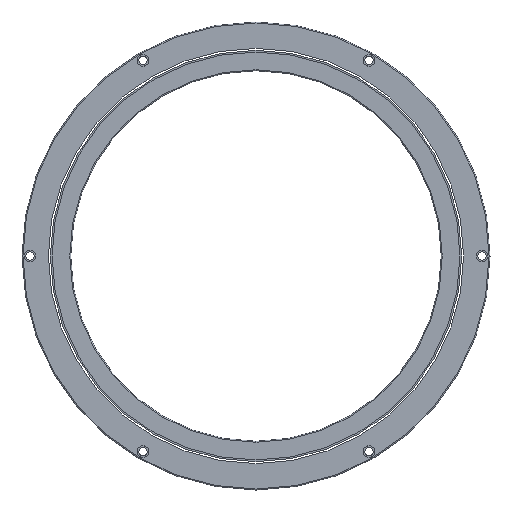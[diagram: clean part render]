
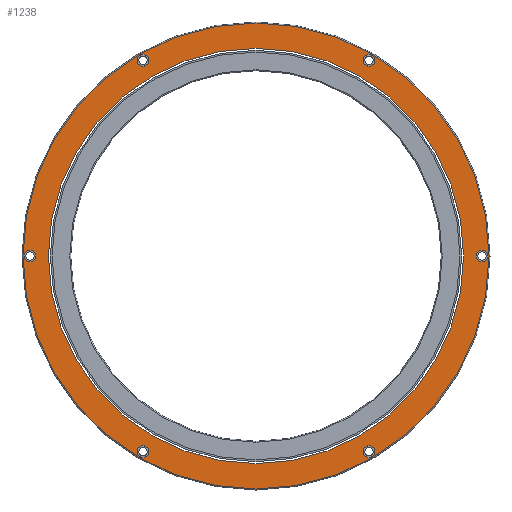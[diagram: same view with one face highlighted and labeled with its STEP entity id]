
A CAD part, front view. The second image highlights one B-rep face of the part: STEP entity #1238.
In plain terms, the highlighted planar face has unit normal (0, -1, 0).
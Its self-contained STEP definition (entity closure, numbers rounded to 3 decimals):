
#89=CARTESIAN_POINT('',(0.,0.,0.));
#90=DIRECTION('',(0.,-1.,0.));
#91=DIRECTION('',(-1.,0.,0.));
#92=AXIS2_PLACEMENT_3D('',#89,#90,#91);
#94=CARTESIAN_POINT('',(0.,0.,0.));
#95=DIRECTION('',(0.,1.,0.));
#96=DIRECTION('',(-1.,0.,0.));
#97=AXIS2_PLACEMENT_3D('',#94,#95,#96);
#99=CARTESIAN_POINT('',(-115.9,0.,0.));
#100=DIRECTION('',(0.,1.,0.));
#101=DIRECTION('',(1.,0.,0.));
#102=AXIS2_PLACEMENT_3D('',#99,#100,#101);
#104=CARTESIAN_POINT('',(-115.9,0.,0.));
#105=DIRECTION('',(0.,1.,0.));
#106=DIRECTION('',(-1.,0.,0.));
#107=AXIS2_PLACEMENT_3D('',#104,#105,#106);
#109=CARTESIAN_POINT('',(-57.95,0.,100.372));
#110=DIRECTION('',(0.,1.,0.));
#111=DIRECTION('',(0.5,0.,-0.866));
#112=AXIS2_PLACEMENT_3D('',#109,#110,#111);
#114=CARTESIAN_POINT('',(-57.95,0.,100.372));
#115=DIRECTION('',(0.,1.,0.));
#116=DIRECTION('',(-0.5,0.,0.866));
#117=AXIS2_PLACEMENT_3D('',#114,#115,#116);
#119=CARTESIAN_POINT('',(57.95,0.,100.372));
#120=DIRECTION('',(0.,1.,0.));
#121=DIRECTION('',(-0.5,0.,-0.866));
#122=AXIS2_PLACEMENT_3D('',#119,#120,#121);
#124=CARTESIAN_POINT('',(57.95,0.,100.372));
#125=DIRECTION('',(0.,1.,0.));
#126=DIRECTION('',(0.5,0.,0.866));
#127=AXIS2_PLACEMENT_3D('',#124,#125,#126);
#129=CARTESIAN_POINT('',(115.9,0.,0.));
#130=DIRECTION('',(0.,1.,0.));
#131=DIRECTION('',(-1.,0.,0.));
#132=AXIS2_PLACEMENT_3D('',#129,#130,#131);
#134=CARTESIAN_POINT('',(115.9,0.,0.));
#135=DIRECTION('',(0.,1.,0.));
#136=DIRECTION('',(1.,0.,0.));
#137=AXIS2_PLACEMENT_3D('',#134,#135,#136);
#139=CARTESIAN_POINT('',(57.95,0.,-100.372));
#140=DIRECTION('',(0.,1.,0.));
#141=DIRECTION('',(-0.5,0.,0.866));
#142=AXIS2_PLACEMENT_3D('',#139,#140,#141);
#144=CARTESIAN_POINT('',(57.95,0.,-100.372));
#145=DIRECTION('',(0.,1.,0.));
#146=DIRECTION('',(0.5,0.,-0.866));
#147=AXIS2_PLACEMENT_3D('',#144,#145,#146);
#149=CARTESIAN_POINT('',(-57.95,0.,-100.372));
#150=DIRECTION('',(0.,1.,0.));
#151=DIRECTION('',(0.5,0.,0.866));
#152=AXIS2_PLACEMENT_3D('',#149,#150,#151);
#154=CARTESIAN_POINT('',(-57.95,0.,-100.372));
#155=DIRECTION('',(0.,1.,0.));
#156=DIRECTION('',(-0.5,0.,-0.866));
#157=AXIS2_PLACEMENT_3D('',#154,#155,#156);
#159=CARTESIAN_POINT('',(0.,0.,0.));
#160=DIRECTION('',(0.,1.,0.));
#161=DIRECTION('',(-1.,0.,0.));
#162=AXIS2_PLACEMENT_3D('',#159,#160,#161);
#164=CARTESIAN_POINT('',(0.,0.,0.));
#165=DIRECTION('',(0.,1.,0.));
#166=DIRECTION('',(1.,0.,0.));
#167=AXIS2_PLACEMENT_3D('',#164,#165,#166);
#919=CARTESIAN_POINT('',(-112.9,0.,0.));
#920=VERTEX_POINT('',#919);
#921=CARTESIAN_POINT('',(-118.9,0.,0.));
#922=VERTEX_POINT('',#921);
#931=CARTESIAN_POINT('',(-56.45,0.,97.774));
#932=VERTEX_POINT('',#931);
#933=CARTESIAN_POINT('',(-59.45,0.,102.97));
#934=VERTEX_POINT('',#933);
#943=CARTESIAN_POINT('',(56.45,0.,97.774));
#944=VERTEX_POINT('',#943);
#945=CARTESIAN_POINT('',(59.45,0.,102.97));
#946=VERTEX_POINT('',#945);
#955=CARTESIAN_POINT('',(112.9,0.,0.));
#956=VERTEX_POINT('',#955);
#957=CARTESIAN_POINT('',(118.9,0.,0.));
#958=VERTEX_POINT('',#957);
#976=CARTESIAN_POINT('',(-106.45,0.,0.));
#978=VERTEX_POINT('',#976);
#980=CARTESIAN_POINT('',(106.45,0.,0.));
#982=VERTEX_POINT('',#980);
#995=CARTESIAN_POINT('',(-119.5,0.,0.));
#996=CARTESIAN_POINT('',(119.5,0.,0.));
#997=VERTEX_POINT('',#995);
#998=VERTEX_POINT('',#996);
#1043=CARTESIAN_POINT('',(56.45,0.,-97.774));
#1044=CARTESIAN_POINT('',(59.45,0.,-102.97));
#1045=VERTEX_POINT('',#1043);
#1046=VERTEX_POINT('',#1044);
#1055=CARTESIAN_POINT('',(-56.45,0.,-97.774));
#1056=CARTESIAN_POINT('',(-59.45,0.,-102.97));
#1057=VERTEX_POINT('',#1055);
#1058=VERTEX_POINT('',#1056);
#1187=CARTESIAN_POINT('',(0.,0.,0.));
#1188=DIRECTION('',(0.,1.,0.));
#1189=DIRECTION('',(1.,0.,0.));
#1190=AXIS2_PLACEMENT_3D('',#1187,#1188,#1189);
#1191=PLANE('',#1190);
#1192=ORIENTED_EDGE('',*,*,#1147,.T.);
#1193=ORIENTED_EDGE('',*,*,#1162,.T.);
#1194=EDGE_LOOP('',(#1192,#1193));
#1195=FACE_OUTER_BOUND('',#1194,.F.);
#1197=ORIENTED_EDGE('',*,*,#1196,.F.);
#1199=ORIENTED_EDGE('',*,*,#1198,.F.);
#1200=EDGE_LOOP('',(#1197,#1199));
#1201=FACE_BOUND('',#1200,.F.);
#1203=ORIENTED_EDGE('',*,*,#1202,.F.);
#1205=ORIENTED_EDGE('',*,*,#1204,.F.);
#1206=EDGE_LOOP('',(#1203,#1205));
#1207=FACE_BOUND('',#1206,.F.);
#1209=ORIENTED_EDGE('',*,*,#1208,.F.);
#1211=ORIENTED_EDGE('',*,*,#1210,.F.);
#1212=EDGE_LOOP('',(#1209,#1211));
#1213=FACE_BOUND('',#1212,.F.);
#1215=ORIENTED_EDGE('',*,*,#1214,.F.);
#1217=ORIENTED_EDGE('',*,*,#1216,.F.);
#1218=EDGE_LOOP('',(#1215,#1217));
#1219=FACE_BOUND('',#1218,.F.);
#1221=ORIENTED_EDGE('',*,*,#1220,.F.);
#1223=ORIENTED_EDGE('',*,*,#1222,.F.);
#1224=EDGE_LOOP('',(#1221,#1223));
#1225=FACE_BOUND('',#1224,.F.);
#1227=ORIENTED_EDGE('',*,*,#1226,.F.);
#1229=ORIENTED_EDGE('',*,*,#1228,.F.);
#1230=EDGE_LOOP('',(#1227,#1229));
#1231=FACE_BOUND('',#1230,.F.);
#1233=ORIENTED_EDGE('',*,*,#1232,.T.);
#1235=ORIENTED_EDGE('',*,*,#1234,.F.);
#1236=EDGE_LOOP('',(#1233,#1235));
#1237=FACE_BOUND('',#1236,.F.);
#93=CIRCLE('',#92,106.45);
#98=CIRCLE('',#97,106.45);
#103=CIRCLE('',#102,3.);
#108=CIRCLE('',#107,3.);
#113=CIRCLE('',#112,3.);
#118=CIRCLE('',#117,3.);
#123=CIRCLE('',#122,3.);
#128=CIRCLE('',#127,3.);
#133=CIRCLE('',#132,3.);
#138=CIRCLE('',#137,3.);
#143=CIRCLE('',#142,3.);
#148=CIRCLE('',#147,3.);
#153=CIRCLE('',#152,3.);
#158=CIRCLE('',#157,3.);
#163=CIRCLE('',#162,119.5);
#168=CIRCLE('',#167,119.5);
#1147=EDGE_CURVE('',#997,#998,#163,.T.);
#1162=EDGE_CURVE('',#998,#997,#168,.T.);
#1196=EDGE_CURVE('',#920,#922,#103,.T.);
#1198=EDGE_CURVE('',#922,#920,#108,.T.);
#1202=EDGE_CURVE('',#932,#934,#113,.T.);
#1204=EDGE_CURVE('',#934,#932,#118,.T.);
#1208=EDGE_CURVE('',#944,#946,#123,.T.);
#1210=EDGE_CURVE('',#946,#944,#128,.T.);
#1214=EDGE_CURVE('',#956,#958,#133,.T.);
#1216=EDGE_CURVE('',#958,#956,#138,.T.);
#1220=EDGE_CURVE('',#1045,#1046,#143,.T.);
#1222=EDGE_CURVE('',#1046,#1045,#148,.T.);
#1226=EDGE_CURVE('',#1057,#1058,#153,.T.);
#1228=EDGE_CURVE('',#1058,#1057,#158,.T.);
#1232=EDGE_CURVE('',#978,#982,#93,.T.);
#1234=EDGE_CURVE('',#978,#982,#98,.T.);
#1238=ADVANCED_FACE('',(#1195,#1201,#1207,#1213,#1219,#1225,#1231,#1237),#1191,
.F.);
